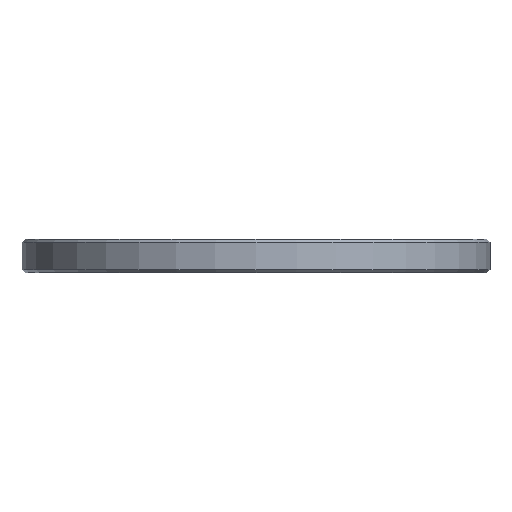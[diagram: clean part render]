
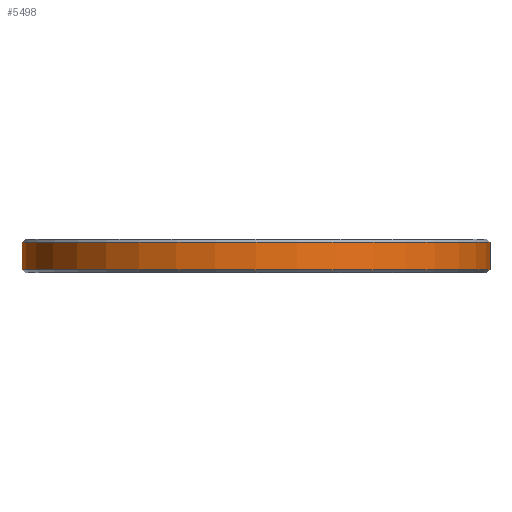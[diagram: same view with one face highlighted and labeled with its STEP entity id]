
A CAD part, front view. The second image highlights one B-rep face of the part: STEP entity #5498.
In plain terms, the highlighted cylindrical face has radius 21.875 mm (diameter 43.75 mm), a full revolution.
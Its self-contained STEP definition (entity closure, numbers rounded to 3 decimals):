
#307=CYLINDRICAL_SURFACE('',#5822,21.875);
#575=FACE_OUTER_BOUND('',#880,.T.);
#880=EDGE_LOOP('',(#5159,#5160,#5161,#5162));
#1613=LINE('',#8720,#2342);
#2342=VECTOR('',#7158,21.875);
#2382=CIRCLE('',#5821,21.875);
#2383=CIRCLE('',#5823,21.875);
#2886=VERTEX_POINT('',#8714);
#2887=VERTEX_POINT('',#8718);
#3644=EDGE_CURVE('',#2886,#2886,#2382,.T.);
#3646=EDGE_CURVE('',#2887,#2887,#2383,.T.);
#3647=EDGE_CURVE('',#2887,#2886,#1613,.T.);
#5159=ORIENTED_EDGE('',*,*,#3646,.F.);
#5160=ORIENTED_EDGE('',*,*,#3647,.T.);
#5161=ORIENTED_EDGE('',*,*,#3644,.F.);
#5162=ORIENTED_EDGE('',*,*,#3647,.F.);
#5498=ADVANCED_FACE('',(#575),#307,.T.);
#5821=AXIS2_PLACEMENT_3D('',#8715,#7151,#7152);
#5822=AXIS2_PLACEMENT_3D('',#8717,#7154,#7155);
#5823=AXIS2_PLACEMENT_3D('',#8719,#7156,#7157);
#7151=DIRECTION('center_axis',(0.,0.,-1.));
#7152=DIRECTION('ref_axis',(1.,0.,0.));
#7154=DIRECTION('center_axis',(0.,0.,1.));
#7155=DIRECTION('ref_axis',(1.,0.,0.));
#7156=DIRECTION('center_axis',(0.,0.,1.));
#7157=DIRECTION('ref_axis',(1.,0.,0.));
#7158=DIRECTION('',(0.,0.,-1.));
#8714=CARTESIAN_POINT('',(-21.875,0.,0.3));
#8715=CARTESIAN_POINT('Origin',(0.,0.,0.3));
#8717=CARTESIAN_POINT('Origin',(0.,0.,0.));
#8718=CARTESIAN_POINT('',(-21.875,0.,2.825));
#8719=CARTESIAN_POINT('Origin',(0.,0.,2.825));
#8720=CARTESIAN_POINT('',(-21.875,0.,0.));
